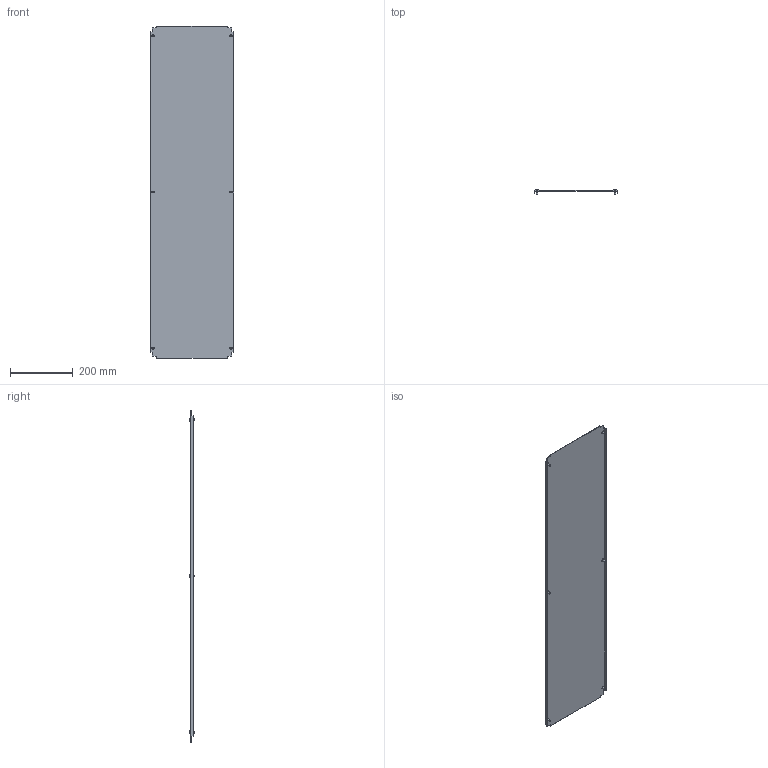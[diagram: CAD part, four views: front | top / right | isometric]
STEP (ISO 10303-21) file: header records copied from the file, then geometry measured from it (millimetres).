
FILE_DESCRIPTION (( 'STEP AP203' ), '1' );
FILE_NAME ('R5N1BP124.STEP', '2025-02-21T13:58:02', ( '' ), ( '' ), 'SwSTEP 2.0', 'SolidWorks 2022', '' );
FILE_SCHEMA (( 'CONFIG_CONTROL_DESIGN' ));
Length unit declared in the file: millimetre
Products named in the file (3): M5x12 DIN 7500 C Torx Zinc_stright; RB.1923.00.00.0_-08; R5N1BP124
Assembly tree (7 placements, depth 2):
  R5N1BP124
    RB.1923.00.00.0_-08
    M5x12 DIN 7500 C Torx Zinc_stright  x6
Bounding box: 268 x 15.56 x 1062 mm (x, y, z)
Volume: 451036 mm3; surface area: 604769.4 mm2
Topology: 7 solids, 7 shells, 166 faces, 384 edges, 238 vertices
Faces by surface type: plane 106, cylinder 24, torus 12, cone 12, sphere 6, bspline 6
Full cylindrical faces by diameter (mm): 5 x6, 9.5 x6
Entity records: 3297 total; most frequent: CARTESIAN_POINT 674, ORIENTED_EDGE 448, DIRECTION 444, EDGE_CURVE 224, LINE 180, VECTOR 180, VERTEX_POINT 150, AXIS2_PLACEMENT_3D 132
